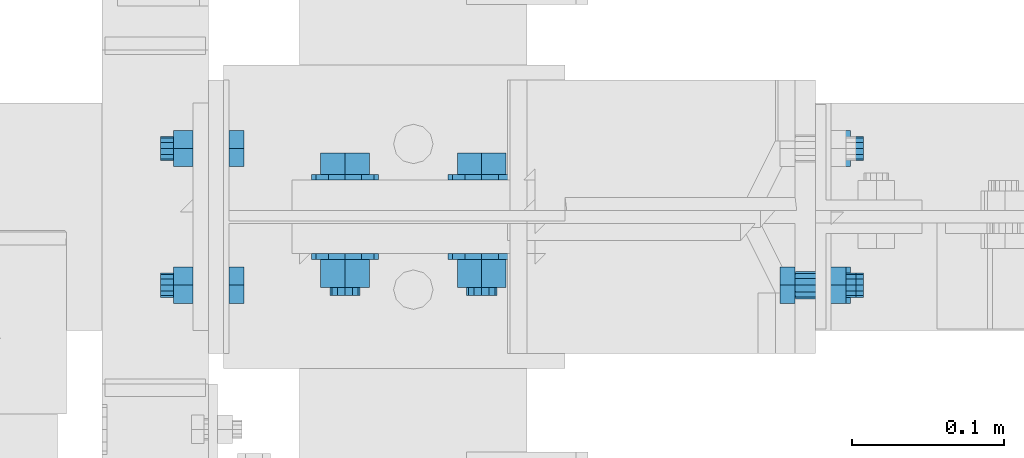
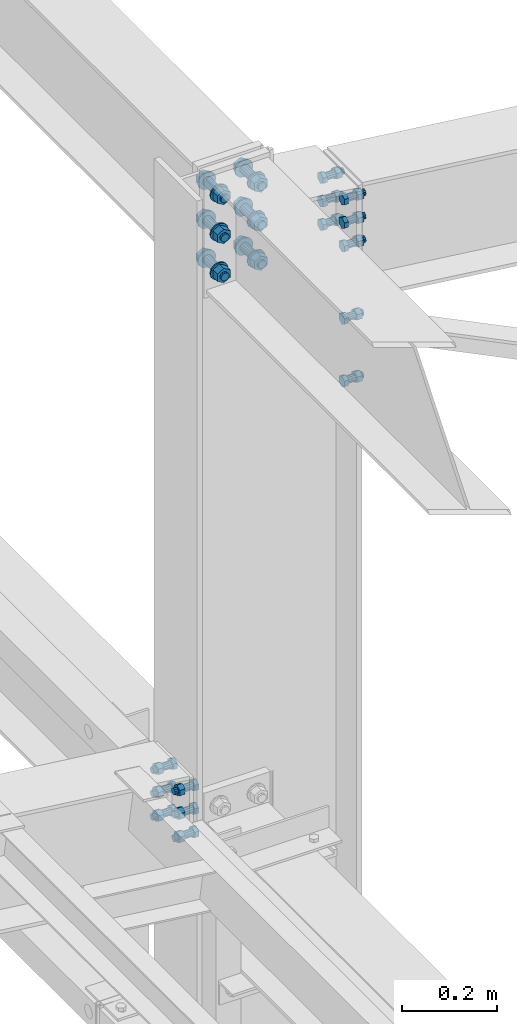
# One storey, part 116 of 3134: 4 mechanical fasteners, 3 elements without a shape of their own.
"""IFC2X3 building model written with IfcOpenShell, lengths in millimetres."""

import ifcopenshell
import ifcopenshell.guid

model = None  # the IFC model being written
_history = None  # IfcOwnerHistory: only IFC2X3 demands one
_inside = {}  # id of a spatial element -> (the spatial element, [elements in it])
_under = {}  # id of a project, library or spatial element -> (it, [spatial elements below it])
_declared = {}  # id of a project -> (the project, [libraries it declares])
_typed = {}  # id of a type object -> (the type object, [elements of that type])
_made_of = {}  # id of a material, layer set ... -> (it, [elements and type objects made of it])


def new_model(schema):
    """Start an empty IFC model of exactly this schema.

    Asked for "IFC4X3", IfcOpenShell would pick the latest addendum, in which some entities
    have other attributes; the version numbers below select the first issue.
    IFC2X3 requires an IfcOwnerHistory on every rooted entity: one is made here for all.
    """
    global model, _history
    if schema == "IFC4X3":
        model = ifcopenshell.file(schema_version=(4, 3, 0, 0))
    else:
        model = ifcopenshell.file(schema=schema)
    _inside.clear()
    _under.clear()
    _declared.clear()
    _typed.clear()
    _made_of.clear()
    _history = None
    if model.schema == "IFC2X3":
        org = make("IfcOrganization", Name="unknown")
        user = make(
            "IfcPersonAndOrganization",
            ThePerson=make("IfcPerson", FamilyName="unknown"),
            TheOrganization=org,
        )
        app = make(
            "IfcApplication",
            ApplicationDeveloper=org,
            Version="unknown",
            ApplicationFullName="unknown",
            ApplicationIdentifier="unknown",
        )
        _history = make(
            "IfcOwnerHistory",
            OwningUser=user,
            OwningApplication=app,
            ChangeAction="ADDED",
            CreationDate=0,
        )
    return model


def make(cls, **values):
    """One entity of the class cls with the attributes given. An attribute that is None is left unset."""
    return model.create_entity(
        cls, **{name: value for name, value in values.items() if value is not None}
    )


def rooted(cls, **values):
    """An entity with a GlobalId (a new one), such as an element, a storey or a relation."""
    return make(cls, GlobalId=ifcopenshell.guid.new(), OwnerHistory=_history, **values)


def si_unit(unit_type, name, prefix=None):
    """IfcSIUnit, for example si_unit("LENGTHUNIT", "METRE", prefix="MILLI")."""
    return make("IfcSIUnit", UnitType=unit_type, Prefix=prefix, Name=name)


def assignment(units):
    """IfcUnitAssignment: the units of a project."""
    return None if units is None else make("IfcUnitAssignment", Units=units)


def point(xyz):
    """IfcCartesianPoint."""
    return None if xyz is None else make("IfcCartesianPoint", Coordinates=xyz)


def direction(xyz):
    """IfcDirection."""
    return None if xyz is None else make("IfcDirection", DirectionRatios=xyz)


def frame(location, z_axis=None, x_axis=None):
    """IfcAxis2Placement3D, a coordinate frame: its origin and axes. An axis left out is left unset."""
    return make(
        "IfcAxis2Placement3D",
        Location=point(location),
        Axis=direction(z_axis),
        RefDirection=direction(x_axis),
    )


def origin_with_axes():
    """The frame at (0, 0, 0) with the z axis (0, 0, 1) and the x axis (1, 0, 0) written out."""
    return frame((0.0, 0.0, 0.0), z_axis=(0.0, 0.0, 1.0), x_axis=(1.0, 0.0, 0.0))


def place(relative_to, where):
    """IfcLocalPlacement: puts the frame where relative to a parent placement (None: the world)."""
    return make(
        "IfcLocalPlacement", PlacementRelTo=relative_to, RelativePlacement=where
    )


def context(
    kind, dimensions, precision=None, world=None, true_north=None, identifier=None
):
    """IfcGeometricRepresentationContext, for example the 3D "Model" context."""
    return make(
        "IfcGeometricRepresentationContext",
        ContextIdentifier=identifier,
        ContextType=kind,
        CoordinateSpaceDimension=dimensions,
        Precision=precision,
        WorldCoordinateSystem=world,
        TrueNorth=true_north,
    )


def subcontext(parent, identifier, kind, view, scale=None):
    """IfcGeometricRepresentationSubContext, for example "Body" below "Model"."""
    return make(
        "IfcGeometricRepresentationSubContext",
        ContextIdentifier=identifier,
        ContextType=kind,
        ParentContext=parent,
        TargetScale=scale,
        TargetView=view,
    )


def project(units=None, contexts=None):
    """IfcProject with its units and contexts."""
    return rooted(
        "IfcProject",
        Name="project",
        RepresentationContexts=contexts,
        UnitsInContext=assignment(units),
    )


def spatial(cls, under=None, at=None, **own):
    """A site, building, storey or space (cls), placed at a placement, below another one or the project."""
    s = rooted(cls, ObjectPlacement=at, **own)
    if under is not None:
        _under.setdefault(under.id(), (under, []))[1].append(s)
    return s


def faces_of(points, faces, orient=None, outer=None):
    """IfcFace entities. A face is a list of loops; a loop is a list of indices into points, from 0.

    orient and outer hold one flag for each loop. By default every Orientation is true, the
    first loop of a face is its IfcFaceOuterBound and the others are IfcFaceBound.
    """
    made = []
    for i, loops in enumerate(faces):
        bounds = []
        for j, loop in enumerate(loops):
            is_outer = j == 0 if outer is None else outer[i][j]
            bounds.append(
                make(
                    "IfcFaceOuterBound" if is_outer else "IfcFaceBound",
                    Bound=make("IfcPolyLoop", Polygon=[points[k] for k in loop]),
                    Orientation=True if orient is None else orient[i][j],
                )
            )
        made.append(make("IfcFace", Bounds=bounds))
    return made


def faceted_brep(points, faces, orient=None, outer=None, voids=None):
    """IfcFacetedBrep: a solid bounded by flat faces; with voids (closed shells), ...WithVoids."""
    shared = [point(p) for p in points]
    hull = make("IfcClosedShell", CfsFaces=faces_of(shared, faces, orient, outer))
    if voids is None:
        return make("IfcFacetedBrep", Outer=hull)
    return make(
        "IfcFacetedBrepWithVoids",
        Outer=hull,
        Voids=[
            make(cls, CfsFaces=faces_of(shared, fs, o, b)) for cls, fs, o, b in voids
        ],
    )


def shape(context_of_items, identifier, shape_type, items):
    """IfcShapeRepresentation: the items that make up one representation, for example the "Body"."""
    return make(
        "IfcShapeRepresentation",
        ContextOfItems=context_of_items,
        RepresentationIdentifier=identifier,
        RepresentationType=shape_type,
        Items=items,
    )


def source(mapping_origin, context_of_items, identifier, shape_type, items):
    """IfcRepresentationMap: a shape defined once, which mapped items show again and again."""
    return make(
        "IfcRepresentationMap",
        MappingOrigin=mapping_origin,
        MappedRepresentation=shape(context_of_items, identifier, shape_type, items),
    )


def transform(
    local_origin,
    x_axis=None,
    y_axis=None,
    z_axis=None,
    scale=None,
    scale2=None,
    scale3=None,
    uniform=True,
):
    """IfcCartesianTransformationOperator3D, or its non-uniform kind. x_axis, y_axis, z_axis: its Axis1, 2, 3."""
    if uniform:
        return make(
            "IfcCartesianTransformationOperator3D",
            Axis1=direction(x_axis),
            Axis2=direction(y_axis),
            LocalOrigin=point(local_origin),
            Scale=scale,
            Axis3=direction(z_axis),
        )
    return make(
        "IfcCartesianTransformationOperator3DnonUniform",
        Axis1=direction(x_axis),
        Axis2=direction(y_axis),
        LocalOrigin=point(local_origin),
        Scale=scale,
        Axis3=direction(z_axis),
        Scale2=scale2,
        Scale3=scale3,
    )


def mapped(mapping_source, mapping_target):
    """IfcMappedItem: shows the shape of a source again, moved by a transform."""
    return make(
        "IfcMappedItem", MappingSource=mapping_source, MappingTarget=mapping_target
    )


def material(Name=None, Category=None):
    """IfcMaterial."""
    return make("IfcMaterial", Name=Name, Category=Category)


def made_of(thing, what):
    """Note that an element or type object is made of a material, layer set ...; save() writes the relation."""
    if what is not None:
        _made_of.setdefault(what.id(), (what, []))[1].append(thing)
    return thing


def type_object(cls, material=None, **own):
    """A type object (cls), such as IfcWallType, which elements share."""
    return made_of(rooted(cls, **own), material)


def element(
    cls,
    number,
    at=None,
    inside=None,
    cuts=None,
    type_object=None,
    material=None,
    context=None,
    identifier="Body",
    shape_type=None,
    held_by="IfcProductDefinitionShape",
    body=None,
    shapes=None,
    **own,
):
    """One element of the class cls, such as IfcWall. Its Tag is "e" and its number.

    at: its placement. inside: the storey or other place that contains it. cuts: it is an
    opening in that element (IfcRelVoidsElement). A single representation is given by context,
    identifier, shape_type and body (its items); several are given by shapes. held_by: the class
    of the entity that holds the representations. save() writes the other relations.
    """
    e = rooted(cls, Tag="e%d" % number, ObjectPlacement=at, **own)
    if body is not None:
        shapes = [shape(context, identifier, shape_type, body)]
    if shapes is not None:
        e.Representation = make(held_by, Representations=shapes)
    if inside is not None:
        _inside.setdefault(inside.id(), (inside, []))[1].append(e)
    if cuts is not None:
        rooted(
            "IfcRelVoidsElement", RelatingBuildingElement=cuts, RelatedOpeningElement=e
        )
    if type_object is not None:
        _typed.setdefault(type_object.id(), (type_object, []))[1].append(e)
    return made_of(e, material)


def aggregate(whole, parts):
    """IfcRelAggregates: a whole, such as a stair, and the parts it consists of."""
    return rooted("IfcRelAggregates", RelatingObject=whole, RelatedObjects=parts)


def save(model, path):
    """Write the relations noted so far, then the file.

    IfcRelAggregates (storeys below a building ...), IfcRelContainedInSpatialStructure (elements
    in a storey), IfcRelDefinesByType, IfcRelAssociatesMaterial and IfcRelDeclares: one each for
    every whole, place, type object, material and project.
    """
    for whole, parts in _under.values():
        aggregate(whole, parts)
    for where, things in _inside.values():
        rooted(
            "IfcRelContainedInSpatialStructure",
            RelatedElements=things,
            RelatingStructure=where,
        )
    for kind, things in _typed.values():
        rooted("IfcRelDefinesByType", RelatedObjects=things, RelatingType=kind)
    for what, things in _made_of.values():
        rooted("IfcRelAssociatesMaterial", RelatedObjects=things, RelatingMaterial=what)
    for by, libraries in _declared.values():
        rooted("IfcRelDeclares", RelatingContext=by, RelatedDefinitions=libraries)
    model.write(path)


model = new_model("IFC2X3")

# Units and contexts
model_context = context("Model", 3, precision=1e-05, world=origin_with_axes())
body_context = subcontext(model_context, "Body", "Model", "MODEL_VIEW")
ifc_project = project(units=[si_unit("LENGTHUNIT", "METRE", prefix="MILLI"), si_unit("AREAUNIT", "SQUARE_METRE"), si_unit("VOLUMEUNIT", "CUBIC_METRE"), si_unit("MASSUNIT", "GRAM", prefix="KILO"), si_unit("TIMEUNIT", "SECOND"), si_unit("PLANEANGLEUNIT", "RADIAN"), si_unit("SOLIDANGLEUNIT", "STERADIAN"), si_unit("THERMODYNAMICTEMPERATUREUNIT", "DEGREE_CELSIUS"), si_unit("LUMINOUSINTENSITYUNIT", "LUMEN")], contexts=[model_context])

# Site, building, storey
site_placement = place(None, origin_with_axes())
site = spatial("IfcSite", under=ifc_project, at=site_placement, CompositionType="ELEMENT")
building_placement = place(site_placement, origin_with_axes())
building = spatial("IfcBuilding", under=site, at=building_placement, Name="Undefined", CompositionType="ELEMENT")
storey_placement = place(building_placement, origin_with_axes())
storey = spatial("IfcBuildingStorey", under=building, at=storey_placement, Name="Undefined", CompositionType="ELEMENT", Elevation=0.0)

# Assembly, mechanical fasteners
assembly_1_placement = place(storey_placement, origin_with_axes())
assembly_1 = element("IfcElementAssembly", 1, at=assembly_1_placement, inside=storey, Name="IPE400", AssemblyPlace="NOTDEFINED", PredefinedType="RIGID_FRAME")
ifc_material_1 = material(Name="8.8")
mechanical_fastener_type = type_object("IfcMechanicalFastenerType", Name="Bolt assembly")
shared_shape_1 = source(origin_with_axes(), body_context, "Body", "Brep", [
    faceted_brep([(13.856406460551, -33.499999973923, 0.0), (6.92820323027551, -33.499999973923, 12.0), (-6.92820323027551, -33.499999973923, 12.0), (-13.856406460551, -33.499999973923, 1.69692038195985e-15), (-6.92820323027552, -33.499999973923, -12.0), (6.9282032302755, -33.499999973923, -12.0), (6.9282032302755, -23.499999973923, -12.0), (-6.92820323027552, -23.499999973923, -12.0), (-13.856406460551, -23.499999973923, 1.69692038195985e-15), (-6.92820323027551, -23.499999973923, 12.0), (6.92820323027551, -23.499999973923, 12.0), (13.856406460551, -23.499999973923, 0.0), (8.0, -23.499999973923, 0.0), (6.92820323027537, -23.499999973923, 4.00000000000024), (3.99999999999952, -23.499999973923, 6.92820323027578), (-8.29068785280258e-13, -23.499999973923, 8.0), (-4.00000000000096, -23.499999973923, 6.92820323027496), (-6.9282032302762, -23.499999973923, 3.99999999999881), (-8.0, -23.499999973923, -1.65813757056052e-12), (-6.92820323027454, -23.499999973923, -4.00000000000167), (-3.99999999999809, -23.499999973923, -6.92820323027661), (2.47832457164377e-12, -23.499999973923, -8.0), (4.00000000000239, -23.499999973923, -6.92820323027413), (6.92820323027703, -23.499999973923, -3.99999999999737), (6.92820323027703, 21.500000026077, -3.99999999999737), (4.00000000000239, 21.500000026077, -6.92820323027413), (2.47832457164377e-12, 21.500000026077, -8.0), (-3.99999999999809, 21.500000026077, -6.92820323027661), (-6.92820323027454, 21.500000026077, -4.00000000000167), (-8.0, 21.500000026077, -1.65813757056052e-12), (-6.9282032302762, 21.500000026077, 3.99999999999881), (-4.00000000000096, 21.500000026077, 6.92820323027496), (-8.29068785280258e-13, 21.500000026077, 8.0), (3.99999999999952, 21.500000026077, 6.92820323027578), (6.92820323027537, 21.500000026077, 4.00000000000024), (8.0, 21.500000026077, 0.0), (13.856406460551, 0.0, 0.0), (6.92820323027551, 0.0, 12.0), (-6.92820323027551, 0.0, 12.0), (-13.856406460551, 0.0, 1.69692038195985e-15), (-6.92820323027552, 0.0, -12.0), (6.9282032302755, 0.0, -12.0), (6.9282032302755, 12.9999996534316, -12.0), (-6.92820323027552, 12.9999996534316, -12.0), (-13.856406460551, 12.9999996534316, 1.69692038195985e-15), (-6.92820323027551, 12.9999996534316, 12.0), (6.92820323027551, 12.9999996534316, 12.0), (13.856406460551, 12.9999996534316, 0.0)], [[[0, 1, 2, 3, 4, 5]], [[6, 7, 8, 9, 10, 11]], [[0, 11, 10, 1]], [[1, 10, 9, 2]], [[2, 9, 8, 3]], [[3, 8, 7, 4]], [[4, 7, 6, 5]], [[5, 6, 11, 0]], [[12, 13, 14, 15, 16, 17, 18, 19, 20, 21, 22, 23]], [[24, 25, 26, 27, 28, 29, 30, 31, 32, 33, 34, 35]], [[12, 35, 34, 13]], [[13, 34, 33, 14]], [[14, 33, 32, 15]], [[15, 32, 31, 16]], [[16, 31, 30, 17]], [[17, 30, 29, 18]], [[18, 29, 28, 19]], [[19, 28, 27, 20]], [[20, 27, 26, 21]], [[21, 26, 25, 22]], [[22, 25, 24, 23]], [[23, 24, 35, 12]], [[36, 37, 38, 39, 40, 41]], [[42, 43, 44, 45, 46, 47]], [[36, 47, 46, 37]], [[37, 46, 45, 38]], [[38, 45, 44, 39]], [[39, 44, 43, 40]], [[40, 43, 42, 41]], [[41, 42, 47, 36]]]),
    faceted_brep([(9.0, -10.1000003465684, 0.0), (7.79422863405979, -10.1000003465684, 4.50000000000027), (4.49999999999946, -10.1000003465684, 7.79422863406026), (-9.3270238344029e-13, -10.1000003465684, 9.0), (-4.50000000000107, -10.1000003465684, 7.79422863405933), (-7.79422863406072, -10.1000003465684, 4.49999999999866), (-9.0, -10.1000003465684, -1.86540476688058e-12), (-7.79422863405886, -10.1000003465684, -4.50000000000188), (-4.49999999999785, -10.1000003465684, -7.79422863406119), (2.78811514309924e-12, -10.1000003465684, -9.0), (4.50000000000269, -10.1000003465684, -7.7942286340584), (7.79422863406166, -10.1000003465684, -4.49999999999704), (7.79422863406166, -3.46568413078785e-07, -4.49999999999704), (4.50000000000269, -3.46568413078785e-07, -7.7942286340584), (2.78811514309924e-12, -3.46568413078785e-07, -9.0), (-4.49999999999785, -3.46568413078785e-07, -7.79422863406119), (-7.79422863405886, -3.46568413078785e-07, -4.50000000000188), (-9.0, -3.46568413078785e-07, -1.86540476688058e-12), (-7.79422863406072, -3.46568413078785e-07, 4.49999999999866), (-4.50000000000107, -3.46568413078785e-07, 7.79422863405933), (-9.3270238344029e-13, -3.46568413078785e-07, 9.0), (4.49999999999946, -3.46568413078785e-07, 7.79422863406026), (7.79422863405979, -3.46568413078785e-07, 4.50000000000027), (9.0, -3.46568413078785e-07, 0.0), (9.0, -23.399999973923, 0.0), (7.79422863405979, -23.399999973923, 4.50000000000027), (4.49999999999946, -23.399999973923, 7.79422863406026), (-9.3270238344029e-13, -23.399999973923, 9.0), (-4.50000000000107, -23.399999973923, 7.79422863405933), (-7.79422863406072, -23.399999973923, 4.49999999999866), (-9.0, -23.399999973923, -1.86540476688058e-12), (-7.79422863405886, -23.399999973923, -4.50000000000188), (-4.49999999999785, -23.399999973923, -7.79422863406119), (2.78811514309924e-12, -23.399999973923, -9.0), (4.50000000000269, -23.399999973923, -7.7942286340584), (7.79422863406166, -23.399999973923, -4.49999999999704), (7.79422863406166, -9.89999997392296, -4.49999999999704), (4.50000000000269, -9.89999997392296, -7.7942286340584), (2.78811514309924e-12, -9.89999997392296, -9.0), (-4.49999999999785, -9.89999997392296, -7.79422863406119), (-7.79422863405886, -9.89999997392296, -4.50000000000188), (-9.0, -9.89999997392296, -1.86540476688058e-12), (-7.79422863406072, -9.89999997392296, 4.49999999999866), (-4.50000000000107, -9.89999997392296, 7.79422863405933), (-9.3270238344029e-13, -9.89999997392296, 9.0), (4.49999999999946, -9.89999997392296, 7.79422863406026), (7.79422863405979, -9.89999997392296, 4.50000000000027), (9.0, -9.89999997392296, 0.0)], [[[0, 1, 2, 3, 4, 5, 6, 7, 8, 9, 10, 11]], [[12, 13, 14, 15, 16, 17, 18, 19, 20, 21, 22, 23]], [[0, 23, 22, 1]], [[1, 22, 21, 2]], [[2, 21, 20, 3]], [[3, 20, 19, 4]], [[4, 19, 18, 5]], [[5, 18, 17, 6]], [[6, 17, 16, 7]], [[7, 16, 15, 8]], [[8, 15, 14, 9]], [[9, 14, 13, 10]], [[10, 13, 12, 11]], [[11, 12, 23, 0]], [[24, 25, 26, 27, 28, 29, 30, 31, 32, 33, 34, 35]], [[36, 37, 38, 39, 40, 41, 42, 43, 44, 45, 46, 47]], [[24, 47, 46, 25]], [[25, 46, 45, 26]], [[26, 45, 44, 27]], [[27, 44, 43, 28]], [[28, 43, 42, 29]], [[29, 42, 41, 30]], [[30, 41, 40, 31]], [[31, 40, 39, 32]], [[32, 39, 38, 33]], [[33, 38, 37, 34]], [[34, 37, 36, 35]], [[35, 36, 47, 24]]]),
])
mechanical_fastener_1_placement = place(assembly_1_placement, frame((44055.0000000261, 7650.0, 4360.7105303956), z_axis=(0.0, 1.0, 0.0), x_axis=(0.0, 0.0, -1.0)))
mechanical_fastener_1 = element("IfcMechanicalFastener", 2, at=mechanical_fastener_1_placement, type_object=mechanical_fastener_type, material=ifc_material_1, Name="Bolt assembly", NominalDiameter=16.0, NominalLength=45.0, context=body_context, shape_type="MappedRepresentation", body=[
    mapped(shared_shape_1, transform((0.0, 0.0, -45.0))),
    mapped(shared_shape_1, transform((60.0, 0.0, -45.0))),
    mapped(shared_shape_1, transform((120.0, 0.0, -45.0))),
    mapped(shared_shape_1, transform((0.0, 0.0, 45.0))),
    mapped(shared_shape_1, transform((60.0, 0.0, 45.0))),
    mapped(shared_shape_1, transform((120.0, 0.0, 45.0))),
])
mechanical_fastener_2_placement = place(assembly_1_placement, frame((44475.0000003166, 7650.0, 5615.41113578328), z_axis=(0.0, 1.0, 0.0), x_axis=(0.0, 0.0, 1.0)))
mechanical_fastener_2 = element("IfcMechanicalFastener", 3, at=mechanical_fastener_2_placement, type_object=mechanical_fastener_type, material=ifc_material_1, Name="Bolt assembly", NominalDiameter=16.0, NominalLength=45.0, context=body_context, shape_type="MappedRepresentation", body=[
    mapped(shared_shape_1, transform((0.0, 0.0, -45.0))),
    mapped(shared_shape_1, transform((60.0, 0.0, -45.0))),
    mapped(shared_shape_1, transform((120.0, 0.0, -45.0))),
    mapped(shared_shape_1, transform((0.0, 0.0, 45.0))),
    mapped(shared_shape_1, transform((60.0, 0.0, 45.0))),
    mapped(shared_shape_1, transform((120.0, 0.0, 45.0))),
])
aggregate(assembly_1, [mechanical_fastener_1, mechanical_fastener_2])

# Assembly, mechanical fastener
assembly_2_placement = place(storey_placement, origin_with_axes())
assembly_2 = element("IfcElementAssembly", 4, at=assembly_2_placement, inside=storey, AssemblyPlace="NOTDEFINED", PredefinedType="RIGID_FRAME")
shared_shape_2 = source(origin_with_axes(), body_context, "Body", "Brep", [
    faceted_brep([(13.856406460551, -23.499999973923, 0.0), (6.92820323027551, -23.499999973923, 12.0), (-6.92820323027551, -23.499999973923, 12.0), (-13.856406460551, -23.499999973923, 1.69692038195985e-15), (-6.92820323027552, -23.499999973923, -12.0), (6.9282032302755, -23.499999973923, -12.0), (6.9282032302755, -13.4999999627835, -12.0), (-6.92820323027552, -13.4999999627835, -12.0), (-13.856406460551, -13.4999999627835, 1.69692038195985e-15), (-6.92820323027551, -13.4999999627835, 12.0), (6.92820323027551, -13.4999999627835, 12.0), (13.856406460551, -13.4999999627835, 0.0), (8.0, -13.4999999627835, 0.0), (6.92820323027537, -13.4999999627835, 4.00000000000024), (3.99999999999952, -13.4999999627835, 6.92820323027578), (-8.29068785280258e-13, -13.4999999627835, 8.0), (-4.00000000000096, -13.4999999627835, 6.92820323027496), (-6.9282032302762, -13.4999999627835, 3.99999999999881), (-8.0, -13.4999999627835, -1.65813757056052e-12), (-6.92820323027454, -13.4999999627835, -4.00000000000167), (-3.99999999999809, -13.4999999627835, -6.92820323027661), (2.47832457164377e-12, -13.4999999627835, -8.0), (4.00000000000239, -13.4999999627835, -6.92820323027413), (6.92820323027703, -13.4999999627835, -3.99999999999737), (6.92820323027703, 26.5000000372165, -3.99999999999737), (4.00000000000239, 26.5000000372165, -6.92820323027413), (2.47832457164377e-12, 26.5000000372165, -8.0), (-3.99999999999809, 26.5000000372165, -6.92820323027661), (-6.92820323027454, 26.5000000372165, -4.00000000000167), (-8.0, 26.5000000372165, -1.65813757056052e-12), (-6.9282032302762, 26.5000000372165, 3.99999999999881), (-4.00000000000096, 26.5000000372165, 6.92820323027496), (-8.29068785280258e-13, 26.5000000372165, 8.0), (3.99999999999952, 26.5000000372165, 6.92820323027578), (6.92820323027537, 26.5000000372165, 4.00000000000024), (8.0, 26.5000000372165, 0.0), (13.856406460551, 7.0, 0.0), (6.92820323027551, 7.0, 12.0), (-6.92820323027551, 7.0, 12.0), (-13.856406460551, 7.0, 1.69692038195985e-15), (-6.92820323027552, 7.0, -12.0), (6.9282032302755, 7.0, -12.0), (6.9282032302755, 20.0, -12.0), (-6.92820323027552, 20.0, -12.0), (-13.856406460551, 20.0, 1.69692038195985e-15), (-6.92820323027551, 20.0, 12.0), (6.92820323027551, 20.0, 12.0), (13.856406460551, 20.0, 0.0)], [[[0, 1, 2, 3, 4, 5]], [[6, 7, 8, 9, 10, 11]], [[0, 11, 10, 1]], [[1, 10, 9, 2]], [[2, 9, 8, 3]], [[3, 8, 7, 4]], [[4, 7, 6, 5]], [[5, 6, 11, 0]], [[12, 13, 14, 15, 16, 17, 18, 19, 20, 21, 22, 23]], [[24, 25, 26, 27, 28, 29, 30, 31, 32, 33, 34, 35]], [[12, 35, 34, 13]], [[13, 34, 33, 14]], [[14, 33, 32, 15]], [[15, 32, 31, 16]], [[16, 31, 30, 17]], [[17, 30, 29, 18]], [[18, 29, 28, 19]], [[19, 28, 27, 20]], [[20, 27, 26, 21]], [[21, 26, 25, 22]], [[22, 25, 24, 23]], [[23, 24, 35, 12]], [[36, 37, 38, 39, 40, 41]], [[42, 43, 44, 45, 46, 47]], [[36, 47, 46, 37]], [[37, 46, 45, 38]], [[38, 45, 44, 39]], [[39, 44, 43, 40]], [[40, 43, 42, 41]], [[41, 42, 47, 36]]]),
    faceted_brep([(9.0, -13.3999999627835, 0.0), (7.79422863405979, -13.3999999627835, 4.50000000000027), (4.49999999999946, -13.3999999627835, 7.79422863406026), (-9.3270238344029e-13, -13.3999999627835, 9.0), (-4.50000000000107, -13.3999999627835, 7.79422863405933), (-7.79422863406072, -13.3999999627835, 4.49999999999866), (-9.0, -13.3999999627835, -1.86540476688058e-12), (-7.79422863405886, -13.3999999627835, -4.50000000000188), (-4.49999999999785, -13.3999999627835, -7.79422863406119), (2.78811514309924e-12, -13.3999999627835, -9.0), (4.50000000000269, -13.3999999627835, -7.7942286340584), (7.79422863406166, -13.3999999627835, -4.49999999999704), (7.79422863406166, 0.100000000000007, -4.49999999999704), (4.50000000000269, 0.100000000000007, -7.7942286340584), (2.78811514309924e-12, 0.100000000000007, -9.0), (-4.49999999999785, 0.100000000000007, -7.79422863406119), (-7.79422863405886, 0.100000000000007, -4.50000000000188), (-9.0, 0.100000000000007, -1.86540476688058e-12), (-7.79422863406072, 0.100000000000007, 4.49999999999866), (-4.50000000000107, 0.100000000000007, 7.79422863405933), (-9.3270238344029e-13, 0.100000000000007, 9.0), (4.49999999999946, 0.100000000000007, 7.79422863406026), (7.79422863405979, 0.100000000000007, 4.50000000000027), (9.0, 0.100000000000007, 0.0), (9.0, -0.1, 0.0), (7.79422863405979, -0.1, 4.50000000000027), (4.49999999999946, -0.1, 7.79422863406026), (-9.3270238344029e-13, -0.1, 9.0), (-4.50000000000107, -0.1, 7.79422863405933), (-7.79422863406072, -0.1, 4.49999999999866), (-9.0, -0.1, -1.86540476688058e-12), (-7.79422863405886, -0.1, -4.50000000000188), (-4.49999999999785, -0.1, -7.79422863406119), (2.78811514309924e-12, -0.1, -9.0), (4.50000000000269, -0.1, -7.7942286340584), (7.79422863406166, -0.1, -4.49999999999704), (7.79422863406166, 7.0, -4.49999999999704), (4.50000000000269, 7.0, -7.7942286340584), (2.78811514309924e-12, 7.0, -9.0), (-4.49999999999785, 7.0, -7.79422863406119), (-7.79422863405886, 7.0, -4.50000000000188), (-9.0, 7.0, -1.86540476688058e-12), (-7.79422863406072, 7.0, 4.49999999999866), (-4.50000000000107, 7.0, 7.79422863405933), (-9.3270238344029e-13, 7.0, 9.0), (4.49999999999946, 7.0, 7.79422863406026), (7.79422863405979, 7.0, 4.50000000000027), (9.0, 7.0, 0.0)], [[[0, 1, 2, 3, 4, 5, 6, 7, 8, 9, 10, 11]], [[12, 13, 14, 15, 16, 17, 18, 19, 20, 21, 22, 23]], [[0, 23, 22, 1]], [[1, 22, 21, 2]], [[2, 21, 20, 3]], [[3, 20, 19, 4]], [[4, 19, 18, 5]], [[5, 18, 17, 6]], [[6, 17, 16, 7]], [[7, 16, 15, 8]], [[8, 15, 14, 9]], [[9, 14, 13, 10]], [[10, 13, 12, 11]], [[11, 12, 23, 0]], [[24, 25, 26, 27, 28, 29, 30, 31, 32, 33, 34, 35]], [[36, 37, 38, 39, 40, 41, 42, 43, 44, 45, 46, 47]], [[24, 47, 46, 25]], [[25, 46, 45, 26]], [[26, 45, 44, 27]], [[27, 44, 43, 28]], [[28, 43, 42, 29]], [[29, 42, 41, 30]], [[30, 41, 40, 31]], [[31, 40, 39, 32]], [[32, 39, 38, 33]], [[33, 38, 37, 34]], [[34, 37, 36, 35]], [[35, 36, 47, 24]]]),
])
mechanical_fastener_3_placement = place(assembly_2_placement, frame((44464.9999999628, 7650.0, 5429.36590689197), z_axis=(0.0, -1.0, 0.0), x_axis=(0.0, 0.0, -1.0)))
mechanical_fastener_3 = element("IfcMechanicalFastener", 5, at=mechanical_fastener_3_placement, type_object=mechanical_fastener_type, material=ifc_material_1, Name="Bolt assembly", NominalDiameter=16.0, NominalLength=40.0, context=body_context, shape_type="MappedRepresentation", body=[
    mapped(shared_shape_2, transform((0.0, 0.0, 45.0))),
    mapped(shared_shape_2, transform((160.0, 0.0, 45.0))),
])
aggregate(assembly_2, [mechanical_fastener_3])

assembly_3_placement = place(storey_placement, origin_with_axes())
assembly_3 = element("IfcElementAssembly", 6, at=assembly_3_placement, inside=storey, Name="300", AssemblyPlace="NOTDEFINED", PredefinedType="RIGID_FRAME")
ifc_material_2 = material(Name="HR10.9")
shared_shape_3 = source(origin_with_axes(), body_context, "Body", "Brep", [
    faceted_brep([(18.475208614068, -61.8999996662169, 0.0), (9.23760430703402, -61.8999996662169, 16.0), (-9.23760430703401, -61.8999996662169, 16.0), (-18.475208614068, -61.8999996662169, 2.2625605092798e-15), (-9.23760430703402, -61.8999996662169, -16.0), (9.237604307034, -61.8999996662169, -16.0), (9.237604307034, -48.0000000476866, -16.0), (-9.23760430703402, -48.0000000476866, -16.0), (-18.475208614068, -48.0000000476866, 2.2625605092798e-15), (-9.23760430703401, -48.0000000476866, 16.0), (9.23760430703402, -48.0000000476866, 16.0), (18.475208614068, -48.0000000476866, 0.0), (10.0, -48.0000000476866, 0.0), (8.66025403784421, -48.0000000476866, 5.0000000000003), (4.9999999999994, -48.0000000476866, 8.66025403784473), (-1.03633598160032e-12, -48.0000000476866, 10.0), (-5.00000000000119, -48.0000000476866, 8.6602540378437), (-8.66025403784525, -48.0000000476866, 4.99999999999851), (-10.0, -48.0000000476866, -2.07267196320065e-12), (-8.66025403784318, -48.0000000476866, -5.00000000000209), (-4.99999999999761, -48.0000000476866, -8.66025403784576), (3.09790571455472e-12, -48.0000000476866, -10.0), (5.00000000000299, -48.0000000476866, -8.66025403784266), (8.66025403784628, -48.0000000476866, -4.99999999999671), (8.66025403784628, 31.9999999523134, -4.99999999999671), (5.00000000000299, 31.9999999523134, -8.66025403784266), (3.09790571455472e-12, 31.9999999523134, -10.0), (-4.99999999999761, 31.9999999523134, -8.66025403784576), (-8.66025403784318, 31.9999999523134, -5.00000000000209), (-10.0, 31.9999999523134, -2.07267196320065e-12), (-8.66025403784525, 31.9999999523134, 4.99999999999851), (-5.00000000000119, 31.9999999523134, 8.6602540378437), (-1.03633598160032e-12, 31.9999999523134, 10.0), (4.9999999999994, 31.9999999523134, 8.66025403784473), (8.66025403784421, 31.9999999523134, 5.0000000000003), (10.0, 31.9999999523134, 0.0), (22.0, -48.0000000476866, 0.0), (19.0525588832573, -48.0000000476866, 11.0000000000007), (10.9999999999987, -48.0000000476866, 19.0525588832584), (-2.27993915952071e-12, -48.0000000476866, 22.0), (-11.0000000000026, -48.0000000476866, 19.0525588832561), (-19.0525588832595, -48.0000000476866, 10.9999999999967), (-22.0, -48.0000000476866, -4.55987831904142e-12), (-19.052558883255, -48.0000000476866, -11.0000000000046), (-10.9999999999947, -48.0000000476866, -19.0525588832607), (6.81539257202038e-12, -48.0000000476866, -22.0), (11.0000000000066, -48.0000000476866, -19.0525588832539), (19.0525588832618, -48.0000000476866, -10.9999999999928), (19.0525588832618, -44.3000000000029, -10.9999999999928), (11.0000000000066, -44.3000000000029, -19.0525588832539), (6.81539257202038e-12, -44.3000000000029, -22.0), (-10.9999999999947, -44.3000000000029, -19.0525588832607), (-19.052558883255, -44.3000000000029, -11.0000000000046), (-22.0, -44.3000000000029, -4.55987831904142e-12), (-19.0525588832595, -44.3000000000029, 10.9999999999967), (-11.0000000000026, -44.3000000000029, 19.0525588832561), (-2.27993915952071e-12, -44.3000000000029, 22.0), (10.9999999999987, -44.3000000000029, 19.0525588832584), (19.0525588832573, -44.3000000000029, 11.0000000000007), (22.0, -44.3000000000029, 0.0), (22.0, 4.30000000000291, 0.0), (19.0525588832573, 4.30000000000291, 11.0000000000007), (10.9999999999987, 4.30000000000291, 19.0525588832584), (-2.27993915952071e-12, 4.30000000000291, 22.0), (-11.0000000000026, 4.30000000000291, 19.0525588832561), (-19.0525588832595, 4.30000000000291, 10.9999999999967), (-22.0, 4.30000000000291, -4.55987831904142e-12), (-19.052558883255, 4.30000000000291, -11.0000000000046), (-10.9999999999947, 4.30000000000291, -19.0525588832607), (6.81539257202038e-12, 4.30000000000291, -22.0), (11.0000000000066, 4.30000000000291, -19.0525588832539), (19.0525588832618, 4.30000000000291, -10.9999999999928), (19.0525588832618, 8.00000004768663, -10.9999999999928), (11.0000000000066, 8.00000004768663, -19.0525588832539), (6.81539257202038e-12, 8.00000004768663, -22.0), (-10.9999999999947, 8.00000004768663, -19.0525588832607), (-19.052558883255, 8.00000004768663, -11.0000000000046), (-22.0, 8.00000004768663, -4.55987831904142e-12), (-19.0525588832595, 8.00000004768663, 10.9999999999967), (-11.0000000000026, 8.00000004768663, 19.0525588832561), (-2.27993915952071e-12, 8.00000004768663, 22.0), (10.9999999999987, 8.00000004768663, 19.0525588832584), (19.0525588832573, 8.00000004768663, 11.0000000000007), (22.0, 8.00000004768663, 0.0), (18.475208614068, 8.00000004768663, 0.0), (9.23760430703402, 8.00000004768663, 16.0), (-9.23760430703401, 8.00000004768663, 16.0), (-18.475208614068, 8.00000004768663, 2.2625605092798e-15), (-9.23760430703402, 8.00000004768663, -16.0), (9.237604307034, 8.00000004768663, -16.0), (9.237604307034, 26.5499992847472, -16.0), (-9.23760430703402, 26.5499992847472, -16.0), (-18.475208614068, 26.5499992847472, 2.2625605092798e-15), (-9.23760430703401, 26.5499992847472, 16.0), (9.23760430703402, 26.5499992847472, 16.0), (18.475208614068, 26.5499992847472, 0.0)], [[[0, 1, 2, 3, 4, 5]], [[6, 7, 8, 9, 10, 11]], [[0, 11, 10, 1]], [[1, 10, 9, 2]], [[2, 9, 8, 3]], [[3, 8, 7, 4]], [[4, 7, 6, 5]], [[5, 6, 11, 0]], [[12, 13, 14, 15, 16, 17, 18, 19, 20, 21, 22, 23]], [[24, 25, 26, 27, 28, 29, 30, 31, 32, 33, 34, 35]], [[12, 35, 34, 13]], [[13, 34, 33, 14]], [[14, 33, 32, 15]], [[15, 32, 31, 16]], [[16, 31, 30, 17]], [[17, 30, 29, 18]], [[18, 29, 28, 19]], [[19, 28, 27, 20]], [[20, 27, 26, 21]], [[21, 26, 25, 22]], [[22, 25, 24, 23]], [[23, 24, 35, 12]], [[36, 37, 38, 39, 40, 41, 42, 43, 44, 45, 46, 47]], [[48, 49, 50, 51, 52, 53, 54, 55, 56, 57, 58, 59]], [[36, 59, 58, 37]], [[37, 58, 57, 38]], [[38, 57, 56, 39]], [[39, 56, 55, 40]], [[40, 55, 54, 41]], [[41, 54, 53, 42]], [[42, 53, 52, 43]], [[43, 52, 51, 44]], [[44, 51, 50, 45]], [[45, 50, 49, 46]], [[46, 49, 48, 47]], [[47, 48, 59, 36]], [[60, 61, 62, 63, 64, 65, 66, 67, 68, 69, 70, 71]], [[72, 73, 74, 75, 76, 77, 78, 79, 80, 81, 82, 83]], [[60, 83, 82, 61]], [[61, 82, 81, 62]], [[62, 81, 80, 63]], [[63, 80, 79, 64]], [[64, 79, 78, 65]], [[65, 78, 77, 66]], [[66, 77, 76, 67]], [[67, 76, 75, 68]], [[68, 75, 74, 69]], [[69, 74, 73, 70]], [[70, 73, 72, 71]], [[71, 72, 83, 60]], [[84, 85, 86, 87, 88, 89]], [[90, 91, 92, 93, 94, 95]], [[84, 95, 94, 85]], [[85, 94, 93, 86]], [[86, 93, 92, 87]], [[87, 92, 91, 88]], [[88, 91, 90, 89]], [[89, 90, 95, 84]]]),
    faceted_brep([(11.0, -24.3000001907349, 0.0), (9.52627944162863, -24.3000001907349, 5.50000000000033), (5.49999999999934, -24.3000001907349, 9.5262794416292), (-1.13996957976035e-12, -24.3000001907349, 11.0), (-5.50000000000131, -24.3000001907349, 9.52627944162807), (-9.52627944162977, -24.3000001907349, 5.49999999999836), (-11.0, -24.3000001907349, -2.27993915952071e-12), (-9.5262794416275, -24.3000001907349, -5.5000000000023), (-5.49999999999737, -24.3000001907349, -9.52627944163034), (3.40769628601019e-12, -24.3000001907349, -11.0), (5.50000000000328, -24.3000001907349, -9.52627944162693), (9.52627944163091, -24.3000001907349, -5.49999999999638), (9.52627944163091, -15.6999998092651, -5.49999999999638), (5.50000000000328, -15.6999998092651, -9.52627944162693), (3.40769628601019e-12, -15.6999998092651, -11.0), (-5.49999999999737, -15.6999998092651, -9.52627944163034), (-9.5262794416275, -15.6999998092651, -5.5000000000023), (-11.0, -15.6999998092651, -2.27993915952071e-12), (-9.52627944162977, -15.6999998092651, 5.49999999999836), (-5.50000000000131, -15.6999998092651, 9.52627944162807), (-1.13996957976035e-12, -15.6999998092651, 11.0), (5.49999999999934, -15.6999998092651, 9.5262794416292), (9.52627944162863, -15.6999998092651, 5.50000000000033), (11.0, -15.6999998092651, 0.0), (11.0, -44.2000000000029, 0.0), (9.52627944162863, -44.2000000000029, 5.50000000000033), (5.49999999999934, -44.2000000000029, 9.5262794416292), (-1.13996957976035e-12, -44.2000000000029, 11.0), (-5.50000000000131, -44.2000000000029, 9.52627944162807), (-9.52627944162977, -44.2000000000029, 5.49999999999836), (-11.0, -44.2000000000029, -2.27993915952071e-12), (-9.5262794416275, -44.2000000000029, -5.5000000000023), (-5.49999999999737, -44.2000000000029, -9.52627944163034), (3.40769628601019e-12, -44.2000000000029, -11.0), (5.50000000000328, -44.2000000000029, -9.52627944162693), (9.52627944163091, -44.2000000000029, -5.49999999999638), (9.52627944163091, -24.2000000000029, -5.49999999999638), (5.50000000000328, -24.2000000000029, -9.52627944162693), (3.40769628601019e-12, -24.2000000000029, -11.0), (-5.49999999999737, -24.2000000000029, -9.52627944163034), (-9.5262794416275, -24.2000000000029, -5.5000000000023), (-11.0, -24.2000000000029, -2.27993915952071e-12), (-9.52627944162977, -24.2000000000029, 5.49999999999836), (-5.50000000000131, -24.2000000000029, 9.52627944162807), (-1.13996957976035e-12, -24.2000000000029, 11.0), (5.49999999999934, -24.2000000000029, 9.5262794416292), (9.52627944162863, -24.2000000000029, 5.50000000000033), (11.0, -24.2000000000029, 0.0), (11.0, -15.7999999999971, 0.0), (9.52627944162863, -15.7999999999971, 5.50000000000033), (5.49999999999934, -15.7999999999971, 9.5262794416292), (-1.13996957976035e-12, -15.7999999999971, 11.0), (-5.50000000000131, -15.7999999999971, 9.52627944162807), (-9.52627944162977, -15.7999999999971, 5.49999999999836), (-11.0, -15.7999999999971, -2.27993915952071e-12), (-9.5262794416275, -15.7999999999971, -5.5000000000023), (-5.49999999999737, -15.7999999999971, -9.52627944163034), (3.40769628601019e-12, -15.7999999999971, -11.0), (5.50000000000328, -15.7999999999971, -9.52627944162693), (9.52627944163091, -15.7999999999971, -5.49999999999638), (9.52627944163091, 4.30000000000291, -5.49999999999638), (5.50000000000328, 4.30000000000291, -9.52627944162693), (3.40769628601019e-12, 4.30000000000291, -11.0), (-5.49999999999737, 4.30000000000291, -9.52627944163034), (-9.5262794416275, 4.30000000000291, -5.5000000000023), (-11.0, 4.30000000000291, -2.27993915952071e-12), (-9.52627944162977, 4.30000000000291, 5.49999999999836), (-5.50000000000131, 4.30000000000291, 9.52627944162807), (-1.13996957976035e-12, 4.30000000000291, 11.0), (5.49999999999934, 4.30000000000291, 9.5262794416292), (9.52627944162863, 4.30000000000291, 5.50000000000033), (11.0, 4.30000000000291, 0.0)], [[[0, 1, 2, 3, 4, 5, 6, 7, 8, 9, 10, 11]], [[12, 13, 14, 15, 16, 17, 18, 19, 20, 21, 22, 23]], [[0, 23, 22, 1]], [[1, 22, 21, 2]], [[2, 21, 20, 3]], [[3, 20, 19, 4]], [[4, 19, 18, 5]], [[5, 18, 17, 6]], [[6, 17, 16, 7]], [[7, 16, 15, 8]], [[8, 15, 14, 9]], [[9, 14, 13, 10]], [[10, 13, 12, 11]], [[11, 12, 23, 0]], [[24, 25, 26, 27, 28, 29, 30, 31, 32, 33, 34, 35]], [[36, 37, 38, 39, 40, 41, 42, 43, 44, 45, 46, 47]], [[24, 47, 46, 25]], [[25, 46, 45, 26]], [[26, 45, 44, 27]], [[27, 44, 43, 28]], [[28, 43, 42, 29]], [[29, 42, 41, 30]], [[30, 41, 40, 31]], [[31, 40, 39, 32]], [[32, 39, 38, 33]], [[33, 38, 37, 34]], [[34, 37, 36, 35]], [[35, 36, 47, 24]], [[48, 49, 50, 51, 52, 53, 54, 55, 56, 57, 58, 59]], [[60, 61, 62, 63, 64, 65, 66, 67, 68, 69, 70, 71]], [[48, 71, 70, 49]], [[49, 70, 69, 50]], [[50, 69, 68, 51]], [[51, 68, 67, 52]], [[52, 67, 66, 53]], [[53, 66, 65, 54]], [[54, 65, 64, 55]], [[55, 64, 63, 56]], [[56, 63, 62, 57]], [[57, 62, 61, 58]], [[58, 61, 60, 59]], [[59, 60, 71, 48]]]),
])
mechanical_fastener_4_placement = place(assembly_3_placement, frame((44200.0, 7630.0, 5841.5), z_axis=(-1.0, 0.0, 0.0), x_axis=(0.0, 0.0, -1.0)))
mechanical_fastener_4 = element("IfcMechanicalFastener", 7, at=mechanical_fastener_4_placement, type_object=mechanical_fastener_type, material=ifc_material_2, Name="Bolt assembly", NominalDiameter=20.0, NominalLength=80.0, context=body_context, shape_type="MappedRepresentation", body=[
    mapped(shared_shape_3, transform((0.0, 0.0, -45.0))),
    mapped(shared_shape_3, transform((100.0, 0.0, -45.0))),
    mapped(shared_shape_3, transform((200.0, 0.0, -45.0))),
    mapped(shared_shape_3, transform((0.0, 0.0, 45.0))),
    mapped(shared_shape_3, transform((100.0, 0.0, 45.0))),
    mapped(shared_shape_3, transform((200.0, 0.0, 45.0))),
])
aggregate(assembly_3, [mechanical_fastener_4])

save(model, "model.ifc")
